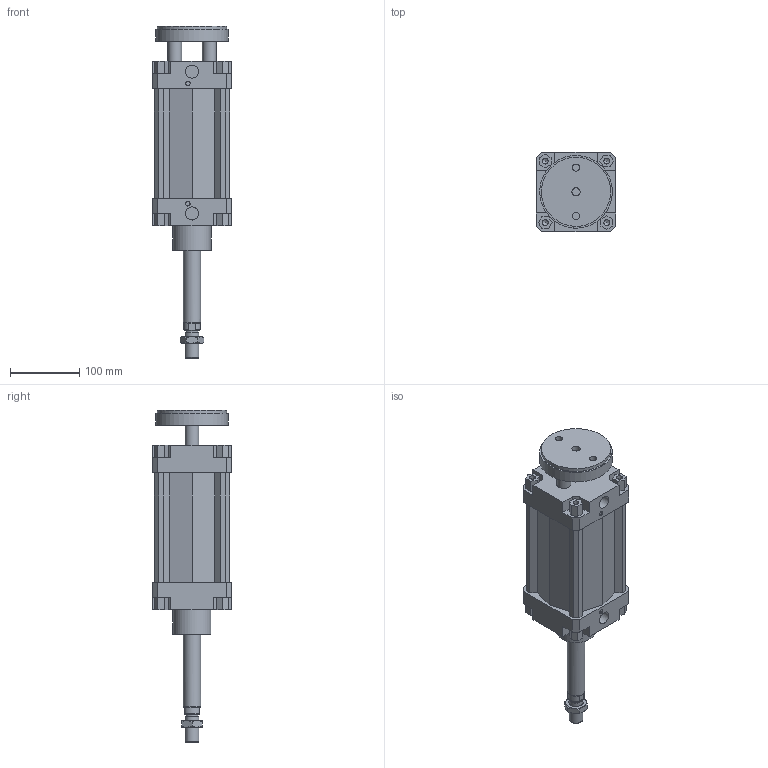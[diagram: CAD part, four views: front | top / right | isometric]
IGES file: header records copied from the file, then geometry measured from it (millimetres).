
Global section: file name: 132#_100_0100_02; native system: Autodesk Inventor 2014; preprocessor: unknown; author: A. Manieri; date: 20161006.163650; units: millimetre
Bounding box: 115 x 115 x 480 mm (x, y, z)
Volume: 2235672.3 mm3; surface area: 333534.1 mm2
Topology: 3 solids, 3 shells, 220 faces, 589 edges, 397 vertices
Faces by surface type: bspline 220
